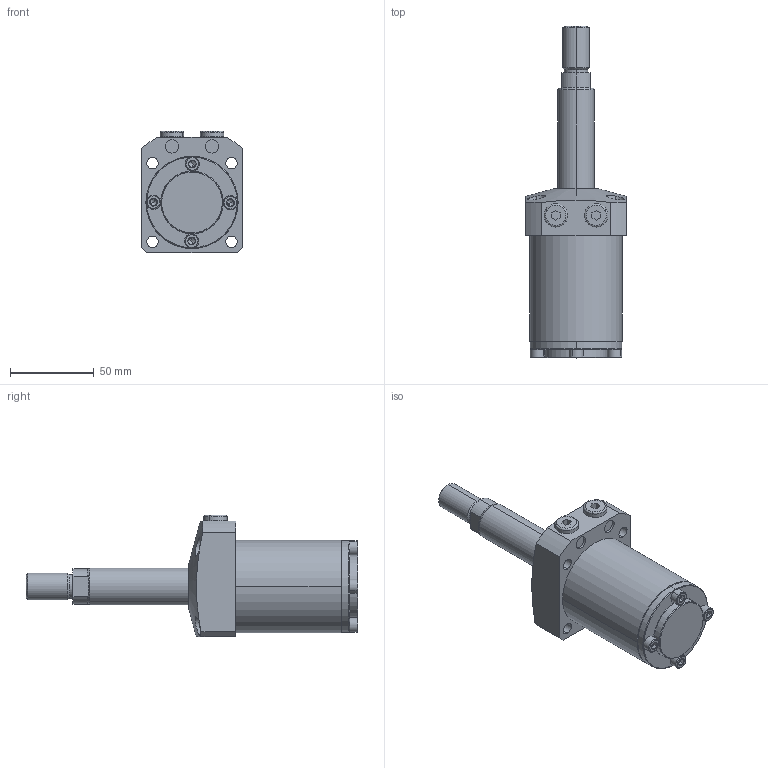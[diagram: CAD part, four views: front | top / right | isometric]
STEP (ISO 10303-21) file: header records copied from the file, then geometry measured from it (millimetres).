
FILE_DESCRIPTION (( 'STEP AP203' ), '1' );
FILE_NAME ('680550-CT-060.step', '2016-11-02T03:23:49', ( 'wxp' ), ( '' ), 'SwSTEP 2.0', 'SolidWorks 2011', '' );
FILE_SCHEMA (( 'CONFIG_CONTROL_DESIGN' ));
Length unit declared in the file: millimetre
Products named in the file (6): 680550-CT-060; 葩璃 680550-60-12^680550-CT-060; 葩璃 68055-CA-15-5^680550-CT-060; 葩璃 68055-CA-15-4^680550-CT-060; 葩璃 68055-CA-15-3^680550-CT-060; 葩璃 68055-CA-60-1^680550-CT-060
Assembly tree (9 placements, depth 2):
  680550-CT-060
    葩璃 68055-CA-15-4^680550-CT-060  x4
    葩璃 68055-CA-15-3^680550-CT-060
    葩璃 680550-60-12^680550-CT-060
    葩璃 68055-CA-60-1^680550-CT-060
    葩璃 68055-CA-15-5^680550-CT-060  x2
Bounding box: 60 x 198 x 72.5 mm (x, y, z)
Volume: 290286 mm3; surface area: 45061.8 mm2
Topology: 9 solids, 9 shells, 278 faces, 552 edges, 309 vertices
Faces by surface type: plane 109, cylinder 81, cone 72, torus 16
Entity records: 5442 total; most frequent: CARTESIAN_POINT 1166, DIRECTION 821, ORIENTED_EDGE 668, AXIS2_PLACEMENT_3D 342, EDGE_CURVE 334, VERTEX_POINT 202, EDGE_LOOP 192, CIRCLE 171
